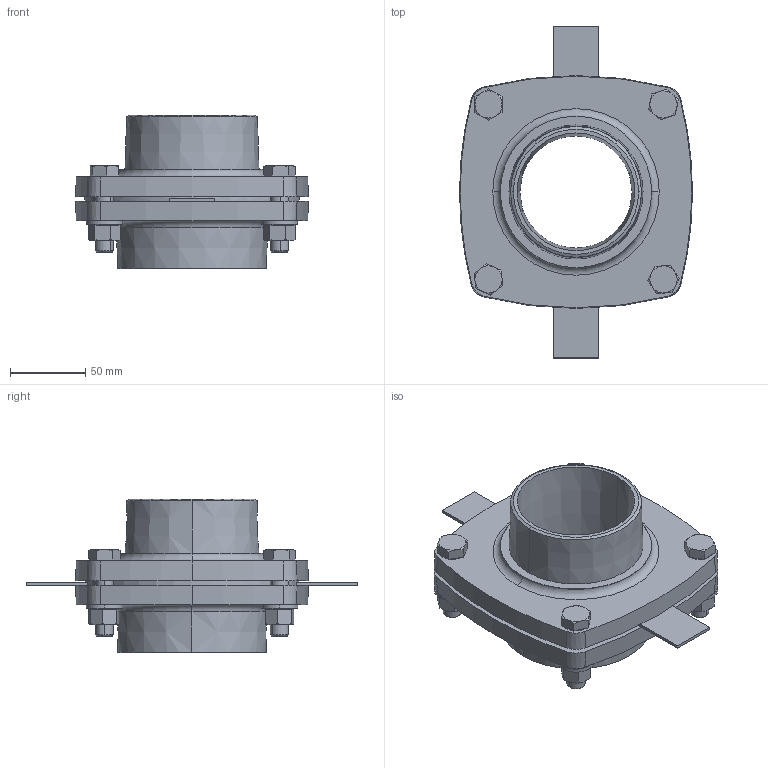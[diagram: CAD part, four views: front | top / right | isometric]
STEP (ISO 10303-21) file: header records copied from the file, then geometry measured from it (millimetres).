
FILE_DESCRIPTION (( 'STEP AP214' ), '1' );
FILE_NAME ('KP_F16-90MF.step', '2012-09-24T15:01:58', ( '' ), ( '' ), 'SwSTEP 2.0', 'SolidWorks 2012', '' );
FILE_SCHEMA (( 'AUTOMOTIVE_DESIGN' ));
Length unit declared in the file: millimetre
Products named in the file (1): KP_F16-90MF
Bounding box: 154.3 x 220 x 102 mm (x, y, z)
Volume: 642661.4 mm3; surface area: 174555.4 mm2
Topology: 15 solids, 15 shells, 369 faces, 802 edges, 470 vertices
Faces by surface type: plane 141, cone 140, cylinder 76, torus 12
Entity records: 14621 total; most frequent: CARTESIAN_POINT 2202, DIRECTION 1820, ORIENTED_EDGE 1604, EDGE_CURVE 802, AXIS2_PLACEMENT_3D 744, VERTEX_POINT 470, EDGE_LOOP 414, UNCERTAINTY_MEASURE_WITH_UNIT 386
